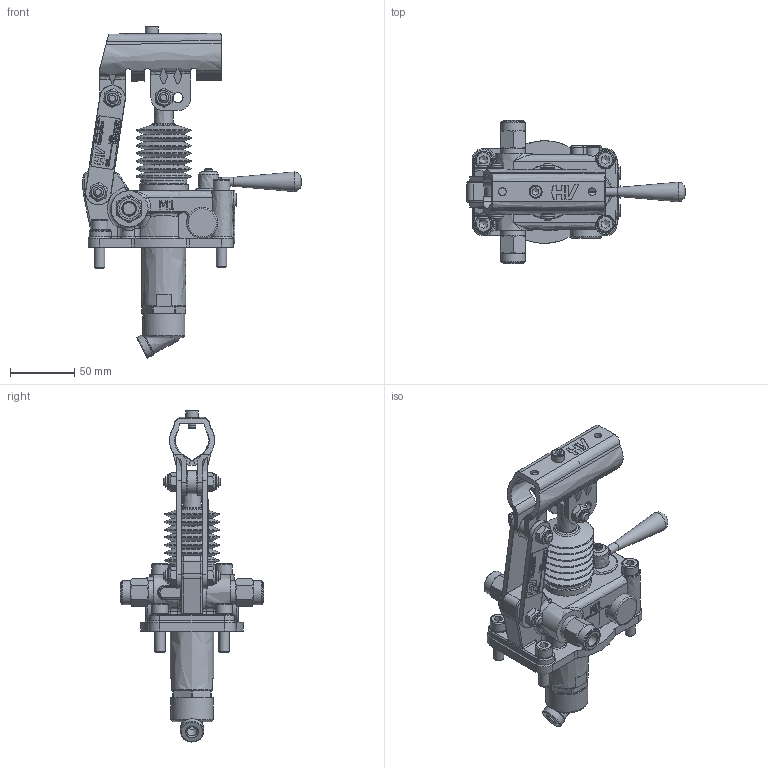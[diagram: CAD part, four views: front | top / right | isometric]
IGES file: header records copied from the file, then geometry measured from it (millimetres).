
Global section: file name: No Iges File Name specified; native system: Autodesk Inventor 2013; preprocessor: AutoDesk Inventor Iges Exporter R2013; author: christian.scardovi; date: 20240307.134247; units: millimetre
Bounding box: 170 x 112 x 258.8 mm (x, y, z)
Volume: 452495.8 mm3; surface area: 124745.4 mm2
Topology: 3 solids, 3 shells, 1701 faces, 4346 edges, 2760 vertices
Faces by surface type: bspline 1701
